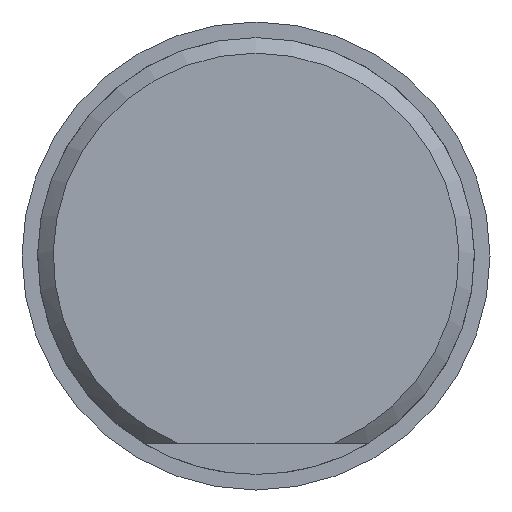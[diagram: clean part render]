
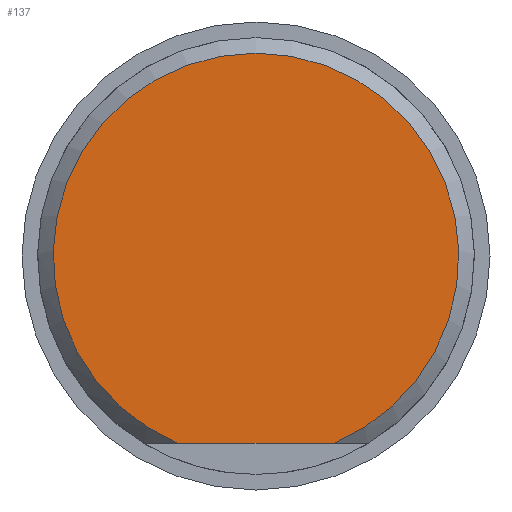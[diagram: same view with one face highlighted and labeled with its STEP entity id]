
A CAD part, front view. The second image highlights one B-rep face of the part: STEP entity #137.
In plain terms, the highlighted planar face has unit normal (0, -1, 0).
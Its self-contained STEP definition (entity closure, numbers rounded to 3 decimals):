
#116=LINE('',#289,#120);
#120=VECTOR('',#255,1.);
#137=ADVANCED_FACE('',(#149),#145,.T.);
#145=PLANE('',#231);
#149=FACE_OUTER_BOUND('',#158,.T.);
#158=EDGE_LOOP('',(#171,#172));
#171=ORIENTED_EDGE('',*,*,#206,.F.);
#172=ORIENTED_EDGE('',*,*,#207,.T.);
#196=VERTEX_POINT('',#290);
#197=VERTEX_POINT('',#291);
#206=EDGE_CURVE('',#196,#197,#116,.T.);
#207=EDGE_CURVE('',#196,#197,#219,.T.);
#219=CIRCLE('',#230,6.5);
#230=AXIS2_PLACEMENT_3D('',#292,#256,#257);
#231=AXIS2_PLACEMENT_3D('',#293,#258,#259);
#255=DIRECTION('',(-1.,0.,0.));
#256=DIRECTION('',(0.,-1.,0.));
#257=DIRECTION('',(0.,0.,-1.));
#258=DIRECTION('',(0.,-1.,0.));
#259=DIRECTION('',(0.,0.,-1.));
#289=CARTESIAN_POINT('',(10.,-10.,-6.));
#290=CARTESIAN_POINT('',(2.5,-10.,-6.));
#291=CARTESIAN_POINT('',(-2.5,-10.,-6.));
#292=CARTESIAN_POINT('',(0.,-10.,0.));
#293=CARTESIAN_POINT('',(0.,-10.,0.));
